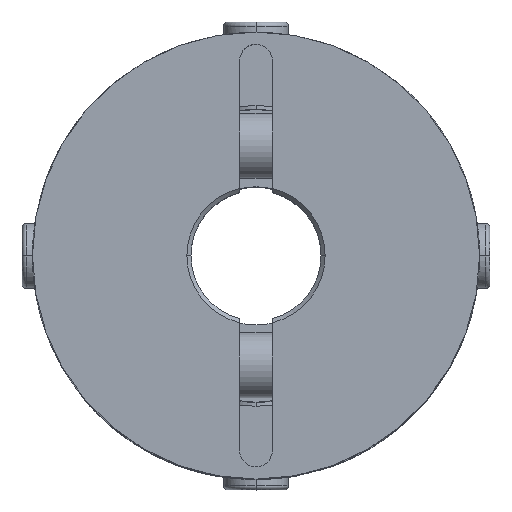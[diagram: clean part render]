
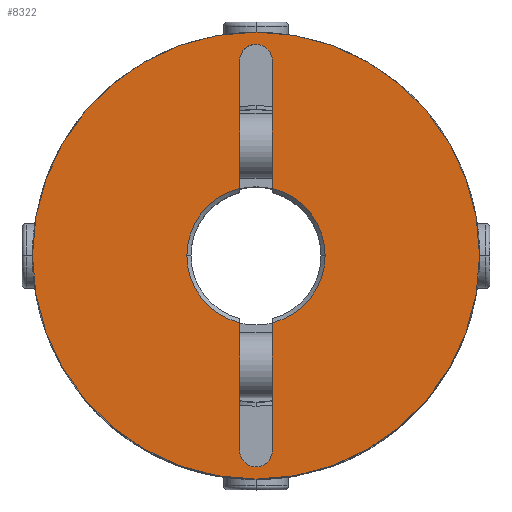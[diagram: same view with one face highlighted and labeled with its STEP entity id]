
A CAD part, top view. The second image highlights one B-rep face of the part: STEP entity #8322.
In plain terms, the highlighted planar face has unit normal (0, 0, 1).
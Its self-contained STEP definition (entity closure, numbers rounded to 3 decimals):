
#632=CARTESIAN_POINT('',(8.5,0.,29.0));
#633=VERTEX_POINT('',#632);
#649=CARTESIAN_POINT('',(2.,-8.261,29.0));
#650=VERTEX_POINT('',#649);
#664=CARTESIAN_POINT('',(0.,0.0,29.0));
#665=DIRECTION('',(0.0,0.0,1.0));
#666=DIRECTION('',(-1.0,0.0,0.0));
#667=AXIS2_PLACEMENT_3D('',#664,#665,#666);
#668=CIRCLE('',#667,8.5);
#669=EDGE_CURVE('',#650,#633,#668,.T.);
#831=CARTESIAN_POINT('',(-8.5,0.,29.0));
#832=VERTEX_POINT('',#831);
#839=CARTESIAN_POINT('',(-2.,-8.261,29.0));
#840=VERTEX_POINT('',#839);
#841=CARTESIAN_POINT('',(0.,0.0,29.0));
#842=DIRECTION('',(0.0,0.0,1.0));
#843=DIRECTION('',(-1.0,0.0,0.0));
#844=AXIS2_PLACEMENT_3D('',#841,#842,#843);
#845=CIRCLE('',#844,8.5);
#846=EDGE_CURVE('',#832,#840,#845,.T.);
#872=CARTESIAN_POINT('',(-1.414,25.414,29.0));
#873=VERTEX_POINT('',#872);
#889=CARTESIAN_POINT('',(2.,24.,29.0));
#890=VERTEX_POINT('',#889);
#897=CARTESIAN_POINT('',(0.,24.,29.0));
#898=DIRECTION('',(0.0,0.0,1.));
#899=DIRECTION('',(0.707,0.707,0.0));
#900=AXIS2_PLACEMENT_3D('',#897,#898,#899);
#901=CIRCLE('',#900,2.);
#902=EDGE_CURVE('',#890,#873,#901,.T.);
#914=CARTESIAN_POINT('',(1.414,-25.414,29.0));
#915=VERTEX_POINT('',#914);
#931=CARTESIAN_POINT('',(-2.,-24.,29.0));
#932=VERTEX_POINT('',#931);
#939=CARTESIAN_POINT('',(0.,-24.,29.0));
#940=DIRECTION('',(0.0,0.0,1.0));
#941=DIRECTION('',(-0.707,-0.707,0.0));
#942=AXIS2_PLACEMENT_3D('',#939,#940,#941);
#943=CIRCLE('',#942,2.0);
#944=EDGE_CURVE('',#932,#915,#943,.T.);
#1499=CARTESIAN_POINT('',(-27.5,0.,29.0));
#1500=VERTEX_POINT('',#1499);
#1507=CARTESIAN_POINT('',(27.5,0.0,29.0));
#1508=VERTEX_POINT('',#1507);
#1509=CARTESIAN_POINT('',(0.,0.0,29.0));
#1510=DIRECTION('',(0.0,0.0,-1.0));
#1511=DIRECTION('',(1.0,0.0,0.0));
#1512=AXIS2_PLACEMENT_3D('',#1509,#1510,#1511);
#1513=CIRCLE('',#1512,27.5);
#1514=EDGE_CURVE('',#1500,#1508,#1513,.T.);
#7523=CARTESIAN_POINT('',(0.,0.0,29.0));
#7524=DIRECTION('',(0.0,0.0,-1.0));
#7525=DIRECTION('',(1.0,0.0,0.0));
#7526=AXIS2_PLACEMENT_3D('',#7523,#7524,#7525);
#7527=CIRCLE('',#7526,27.5);
#7528=EDGE_CURVE('',#1508,#1500,#7527,.T.);
#8081=CARTESIAN_POINT('',(2.,-24.,29.0));
#8082=VERTEX_POINT('',#8081);
#8083=CARTESIAN_POINT('',(0.,-24.,29.0));
#8084=DIRECTION('',(0.0,0.0,1.0));
#8085=DIRECTION('',(-0.707,-0.707,0.0));
#8086=AXIS2_PLACEMENT_3D('',#8083,#8084,#8085);
#8087=CIRCLE('',#8086,2.0);
#8088=EDGE_CURVE('',#915,#8082,#8087,.T.);
#8106=CARTESIAN_POINT('',(2.,-8.261,29.0));
#8107=DIRECTION('',(0.0,-1.0,0.0));
#8108=VECTOR('',#8107,15.739);
#8109=LINE('',#8106,#8108);
#8110=EDGE_CURVE('',#650,#8082,#8109,.T.);
#8129=CARTESIAN_POINT('',(-2.,24.,29.0));
#8130=VERTEX_POINT('',#8129);
#8131=CARTESIAN_POINT('',(0.,24.,29.0));
#8132=DIRECTION('',(0.0,0.0,1.));
#8133=DIRECTION('',(0.707,0.707,0.0));
#8134=AXIS2_PLACEMENT_3D('',#8131,#8132,#8133);
#8135=CIRCLE('',#8134,2.);
#8136=EDGE_CURVE('',#873,#8130,#8135,.T.);
#8154=CARTESIAN_POINT('',(-2.,8.261,29.0));
#8155=VERTEX_POINT('',#8154);
#8156=CARTESIAN_POINT('',(-2.,8.261,29.0));
#8157=DIRECTION('',(0.0,1.0,0.0));
#8158=VECTOR('',#8157,15.739);
#8159=LINE('',#8156,#8158);
#8160=EDGE_CURVE('',#8155,#8130,#8159,.T.);
#8236=CARTESIAN_POINT('',(2.,8.261,29.0));
#8237=VERTEX_POINT('',#8236);
#8251=CARTESIAN_POINT('',(2.,24.,29.0));
#8252=DIRECTION('',(0.0,-1.0,0.0));
#8253=VECTOR('',#8252,15.739);
#8254=LINE('',#8251,#8253);
#8255=EDGE_CURVE('',#890,#8237,#8254,.T.);
#8274=CARTESIAN_POINT('',(-2.,-24.,29.0));
#8275=DIRECTION('',(0.0,1.0,0.0));
#8276=VECTOR('',#8275,15.739);
#8277=LINE('',#8274,#8276);
#8278=EDGE_CURVE('',#932,#840,#8277,.T.);
#8287=CARTESIAN_POINT('',(2.5,0.,29.0));
#8288=DIRECTION('',(0.0,0.0,1.0));
#8289=DIRECTION('',(1.0,0.0,0.0));
#8290=AXIS2_PLACEMENT_3D('',#8287,#8288,#8289);
#8291=PLANE('',#8290);
#8292=ORIENTED_EDGE('',*,*,#7528,.F.);
#8293=ORIENTED_EDGE('',*,*,#1514,.F.);
#8294=EDGE_LOOP('',(#8292,#8293));
#8295=FACE_OUTER_BOUND('',#8294,.T.);
#8296=ORIENTED_EDGE('',*,*,#8110,.T.);
#8297=ORIENTED_EDGE('',*,*,#8088,.F.);
#8298=ORIENTED_EDGE('',*,*,#944,.F.);
#8299=ORIENTED_EDGE('',*,*,#8278,.T.);
#8300=ORIENTED_EDGE('',*,*,#846,.F.);
#8301=CARTESIAN_POINT('',(0.,0.0,29.0));
#8302=DIRECTION('',(0.0,0.0,1.0));
#8303=DIRECTION('',(-1.0,0.0,0.0));
#8304=AXIS2_PLACEMENT_3D('',#8301,#8302,#8303);
#8305=CIRCLE('',#8304,8.5);
#8306=EDGE_CURVE('',#8155,#832,#8305,.T.);
#8307=ORIENTED_EDGE('',*,*,#8306,.F.);
#8308=ORIENTED_EDGE('',*,*,#8160,.T.);
#8309=ORIENTED_EDGE('',*,*,#8136,.F.);
#8310=ORIENTED_EDGE('',*,*,#902,.F.);
#8311=ORIENTED_EDGE('',*,*,#8255,.T.);
#8312=CARTESIAN_POINT('',(0.,0.0,29.0));
#8313=DIRECTION('',(0.0,0.0,1.0));
#8314=DIRECTION('',(-1.0,0.0,0.0));
#8315=AXIS2_PLACEMENT_3D('',#8312,#8313,#8314);
#8316=CIRCLE('',#8315,8.5);
#8317=EDGE_CURVE('',#633,#8237,#8316,.T.);
#8318=ORIENTED_EDGE('',*,*,#8317,.F.);
#8319=ORIENTED_EDGE('',*,*,#669,.F.);
#8320=EDGE_LOOP('',(#8296,#8297,#8298,#8299,#8300,#8307,#8308,#8309,#8310,#8311,#8318,#8319));
#8321=FACE_BOUND('',#8320,.T.);
#8322=ADVANCED_FACE('',(#8295,#8321),#8291,.T.);
